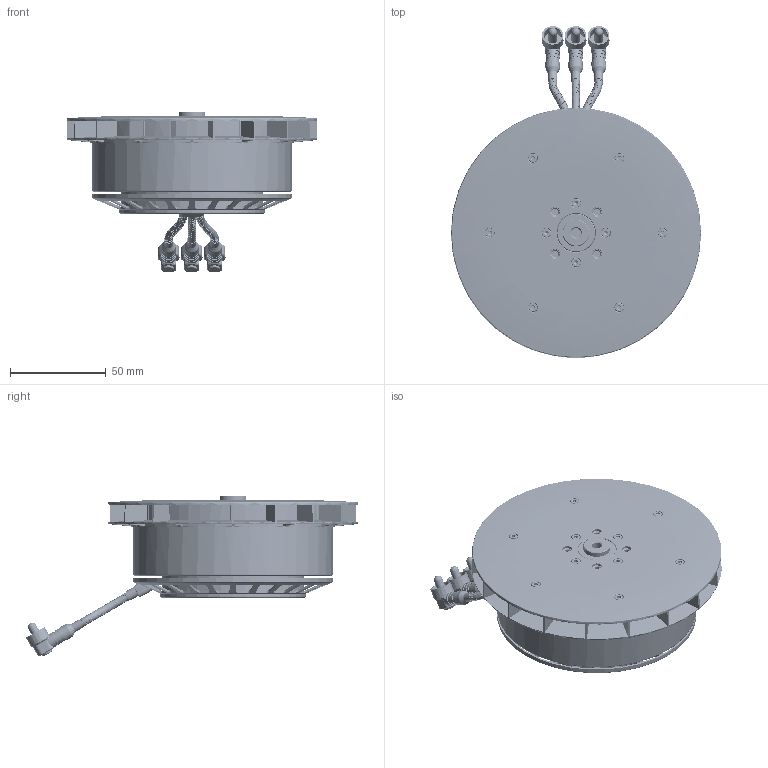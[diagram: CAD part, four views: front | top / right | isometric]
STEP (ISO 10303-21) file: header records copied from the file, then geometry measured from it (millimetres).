
FILE_DESCRIPTION (( 'STEP AP214' ), '1' );
FILE_NAME ('UAVM-X9-PLUS-G2L-9620-80KV-BLACK-HW-2500812.STEP', '2025-08-12T03:48:56', ( '' ), ( '' ), 'SwSTEP 2.0', 'SolidWorks 2021', '' );
FILE_SCHEMA (( 'AUTOMOTIVE_DESIGN' ));
Length unit declared in the file: millimetre
Products named in the file (1): UAVM-X9-PLUS-G2L-9620-80KV-BLACK-HW-2500812
Bounding box: 130.38 x 173.19 x 83.96 mm (x, y, z)
Volume: 403588 mm3; surface area: 80179.2 mm2
Topology: 8 solids, 11 shells, 12894 faces, 39761 edges, 26215 vertices
Faces by surface type: plane 10108, cylinder 1514, bspline 535, cone 493, torus 230, sphere 14
Entity records: 636786 total; most frequent: CARTESIAN_POINT 187526, ORIENTED_EDGE 79502, DIRECTION 44046, EDGE_CURVE 39751, VERTEX_POINT 26215, EDGE_LOOP 16204, AXIS2_PLACEMENT_3D 15370, B_SPLINE_CURVE_WITH_KNOTS 15129
